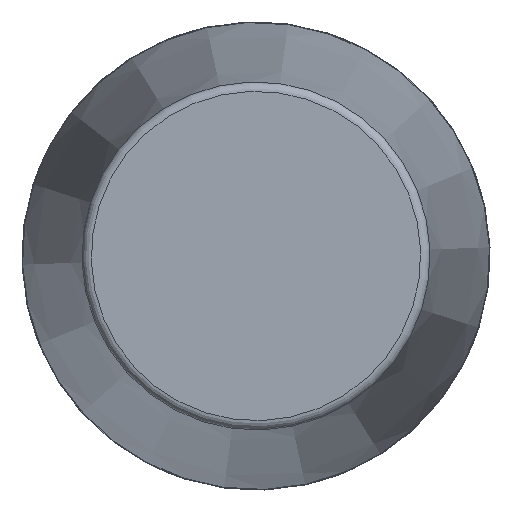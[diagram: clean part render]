
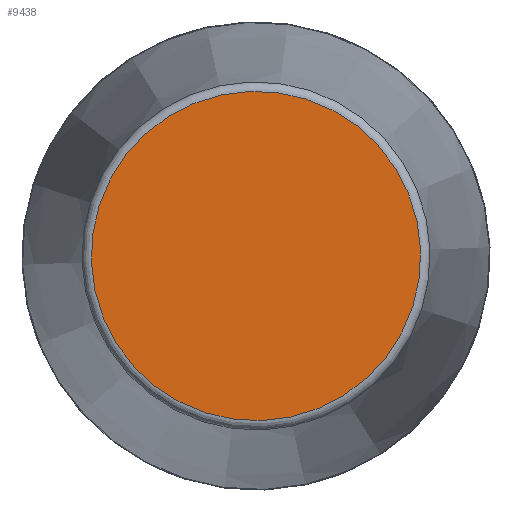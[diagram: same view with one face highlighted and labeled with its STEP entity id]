
A CAD part, front view. The second image highlights one B-rep face of the part: STEP entity #9438.
In plain terms, the highlighted planar face has unit normal (0, -1, 0) as drawn and (1, 0, 0) by its records, which use the part's own axes.
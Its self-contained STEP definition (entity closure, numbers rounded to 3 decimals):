
#2648=PLANE('',#9770);
#3240=FACE_OUTER_BOUND('',#3815,.T.);
#3815=EDGE_LOOP('',(#8911));
#3840=CIRCLE('',#9766,35.172);
#4772=VERTEX_POINT('',#17973);
#6152=EDGE_CURVE('',#4772,#4772,#3840,.T.);
#8911=ORIENTED_EDGE('',*,*,#6152,.F.);
#9438=ADVANCED_FACE('',(#3240),#2648,.T.);
#9766=AXIS2_PLACEMENT_3D('',#17974,#11059,#11060);
#9770=AXIS2_PLACEMENT_3D('',#17980,#11067,#11068);
#11059=DIRECTION('center_axis',(-1.,0.,0.));
#11060=DIRECTION('ref_axis',(0.,0.,
1.));
#11067=DIRECTION('center_axis',(1.,0.,0.));
#11068=DIRECTION('ref_axis',(0.,0.,-1.));
#17973=CARTESIAN_POINT('',(176.,0.,-35.172));
#17974=CARTESIAN_POINT('Origin',(176.,0.,0.));
#17980=CARTESIAN_POINT('Origin',(176.,0.,0.));
